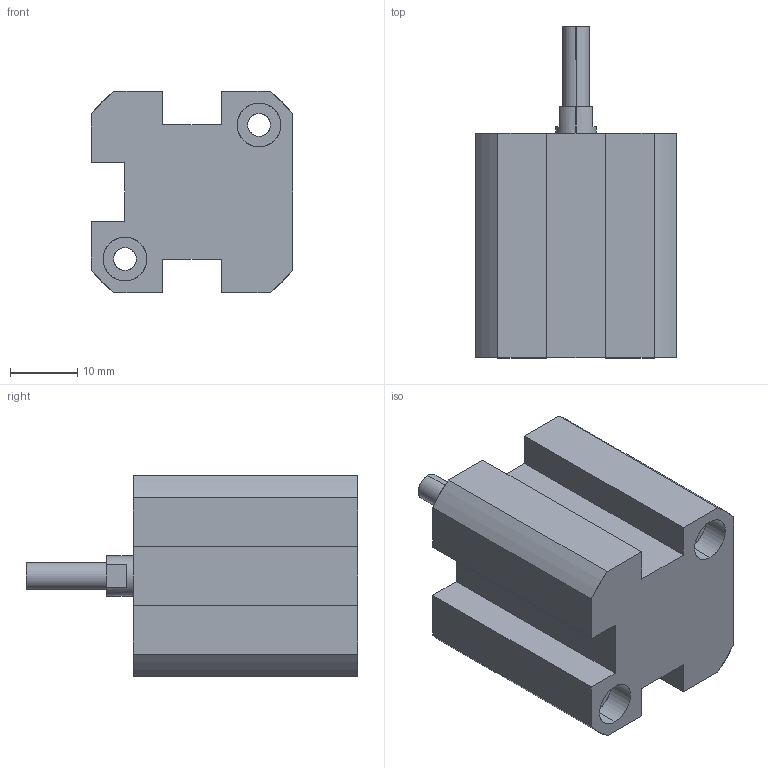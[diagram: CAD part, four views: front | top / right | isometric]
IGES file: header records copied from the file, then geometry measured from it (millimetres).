
Start section: SolidWorks IGES file using analytic representation for surfaces
Global section: file name: C:\Users\Toshiba\Desktop\XC#M2-16D-10.IGS; native system: SolidWorks 2014; preprocessor: SolidWorks 2014; author: Toshiba; date: 160523.164303; units: millimetre
Bounding box: 30 x 49.5 x 30 mm (x, y, z)
Surface area: 7837.5 mm2 (no closed solid volume)
Topology: 0 solids, 0 shells, 76 faces, 1195 edges, 1191 vertices
Faces by surface type: revolution 43, bspline 33
